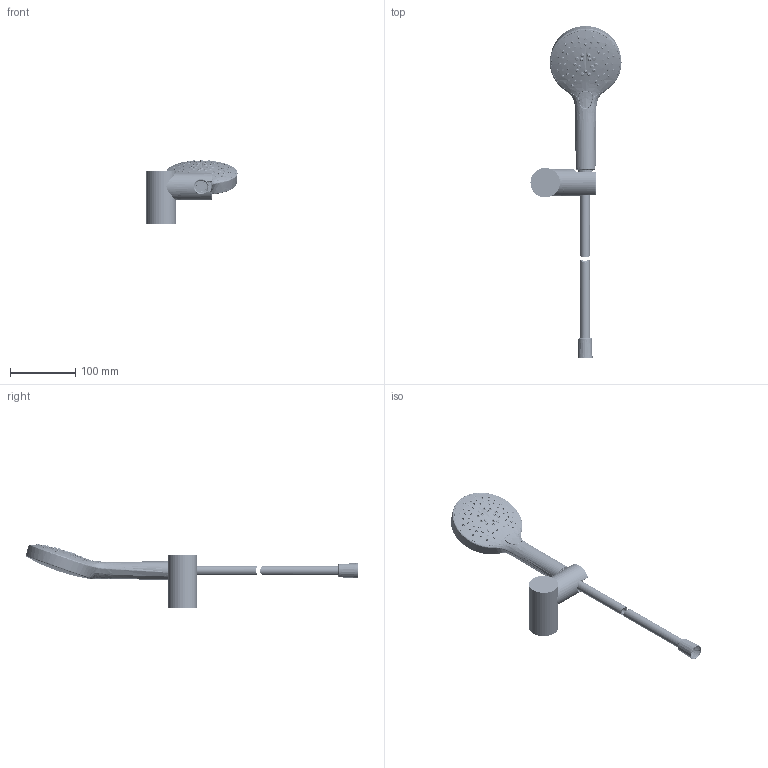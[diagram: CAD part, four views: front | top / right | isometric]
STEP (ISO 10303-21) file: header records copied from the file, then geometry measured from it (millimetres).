
FILE_DESCRIPTION((''),'2;1');
FILE_NAME('76687--00_GEN_ASM','2023-02-10T14:49:21',('sosm1'),(''),'CREO PARAMETRIC BY PTC INC, 2022244','CREO PARAMETRIC BY PTC INC, 2022244','');
FILE_SCHEMA(('CONFIG_CONTROL_DESIGN'));
Length unit declared in the file: millimetre
Products named in the file (25): 76609_POS8; 76609_POS7; 76609_POS2; 76609_POS1; 76609_SOLEX_IGS_ASM; 76609_GEN_SUB01_ASM; 76609--00_ASM; 76686--00_POS1; 76686--00_POS2; 76686--00_POS3; 76686--00_SUB04_ASM; 76686--00_SUB03_ASM; 76686--00_POS28; 76686--00_POS32; 76686--00_SUB02_ASM; 76686--00_SUB01_ASM; 76686--00_ASM; 76687--00_GEN_SUB01_ASM; 76654_POS09; 76654_POS01; 76654_POS04; 76654_POS06; 4409000_ASM; 76687--00_GEN_TILB_ASM; 76687--00_GEN_ASM
Assembly tree (24 placements, depth 8):
  76687--00_GEN_ASM
    76687--00_GEN_SUB01_ASM
      76609--00_ASM
        76609_GEN_SUB01_ASM
          76609_SOLEX_IGS_ASM
            76609_POS8
            76609_POS7
            76609_POS2
            76609_POS1
      76686--00_ASM
        76686--00_SUB01_ASM
          76686--00_SUB02_ASM
            76686--00_POS1
            76686--00_SUB03_ASM
              76686--00_POS2
              76686--00_SUB04_ASM
                76686--00_POS3
            76686--00_POS28
            76686--00_POS32
    76687--00_GEN_TILB_ASM
      4409000_ASM
        76654_POS09
        76654_POS01
        76654_POS04
        76654_POS06
Bounding box: 139.21 x 507.61 x 97.61 mm (x, y, z)
Volume: 250926.9 mm3; surface area: 182245.9 mm2
Topology: 22 solids, 22 shells, 4295 faces, 11423 edges, 7249 vertices
Faces by surface type: bspline 1542, plane 799, cylinder 789, cone 781, torus 323, extrusion 37, sphere 24
Entity records: 262917 total; most frequent: CARTESIAN_POINT 171660, ORIENTED_EDGE 22812, DIRECTION 13154, EDGE_CURVE 11406, VERTEX_POINT 7249, B_SPLINE_CURVE_WITH_KNOTS 6358, AXIS2_PLACEMENT_3D 5245, EDGE_LOOP 4687
